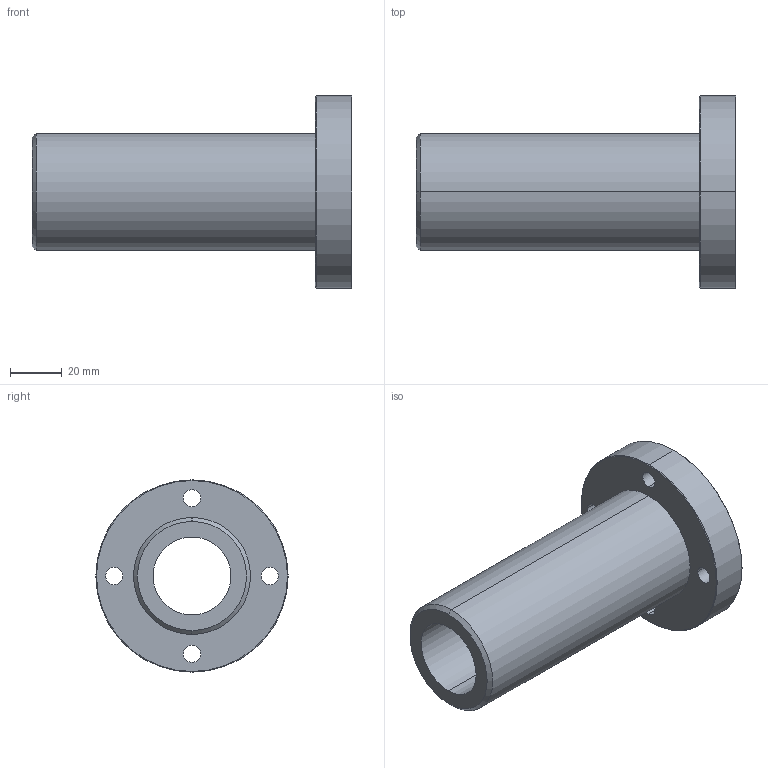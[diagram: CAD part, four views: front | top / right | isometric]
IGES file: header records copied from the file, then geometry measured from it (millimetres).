
Start section: 3D InterOp IGES (Version 21 0 1), Spatial Corp. Copyright (c) 1999-2007.
Global section: file name: DFPJR30.igs; native system: Spatial Corp.; preprocessor: 3D InterOp GENERIC/IGES 3.0; author: Noname; organization: Noname; date: 20220324.143713; units: millimetre
Bounding box: 123 x 74 x 74 mm (x, y, z)
Surface area: 38472.9 mm2 (no closed solid volume)
Topology: 0 solids, 0 shells, 35 faces, 156 edges, 156 vertices
Faces by surface type: revolution 28, extrusion 7
